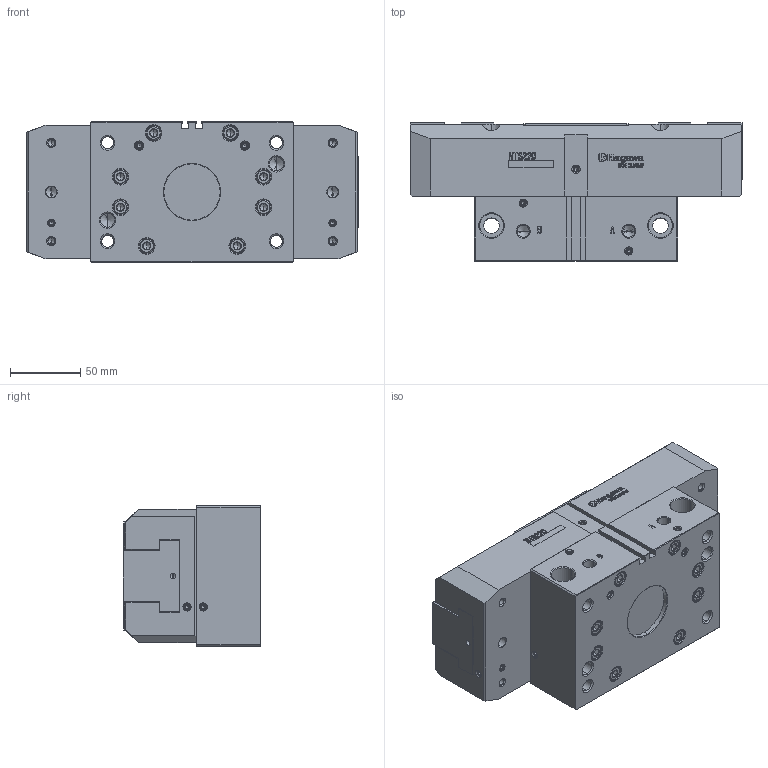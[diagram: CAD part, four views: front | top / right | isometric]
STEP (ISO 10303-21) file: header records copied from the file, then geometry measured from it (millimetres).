
FILE_DESCRIPTION (( 'STEP AP214' ), '1' );
FILE_NAME ('NTS220-UC.STEP', '2025-01-07T07:04:45', ( '' ), ( '' ), 'SwSTEP 2.0', 'SolidWorks 2022', '' );
FILE_SCHEMA (( 'AUTOMOTIVE_DESIGN' ));
Length unit declared in the file: millimetre
Products named in the file (9): REAR BODY^HP-NTS220; BODY^HP-NTS220; MASTER JAW^HP-NTS220; S-TOME2^HP-NTS220; COVER^HP-NTS220; NTS220-UC; BOLT^HP-NTS220; S-TOME1^HP-NTS220; S-SARA^HP-NTS220
Assembly tree (28 placements, depth 2):
  NTS220-UC
    BODY^HP-NTS220
    REAR BODY^HP-NTS220
    MASTER JAW^HP-NTS220  x2
    COVER^HP-NTS220
    BOLT^HP-NTS220  x8
    S-TOME1^HP-NTS220  x9
    S-TOME2^HP-NTS220  x2
    S-SARA^HP-NTS220  x4
Bounding box: 236 x 98 x 100 mm (x, y, z)
Volume: 1612658.2 mm3; surface area: 246973.8 mm2
Topology: 28 solids, 28 shells, 2038 faces, 5453 edges, 3488 vertices
Faces by surface type: plane 1299, cone 360, cylinder 259, bspline 120
Entity records: 56521 total; most frequent: CARTESIAN_POINT 16005, ORIENTED_EDGE 8590, DIRECTION 7409, EDGE_CURVE 4295, VECTOR 3509, LINE 3509, VERTEX_POINT 2810, AXIS2_PLACEMENT_3D 1950
